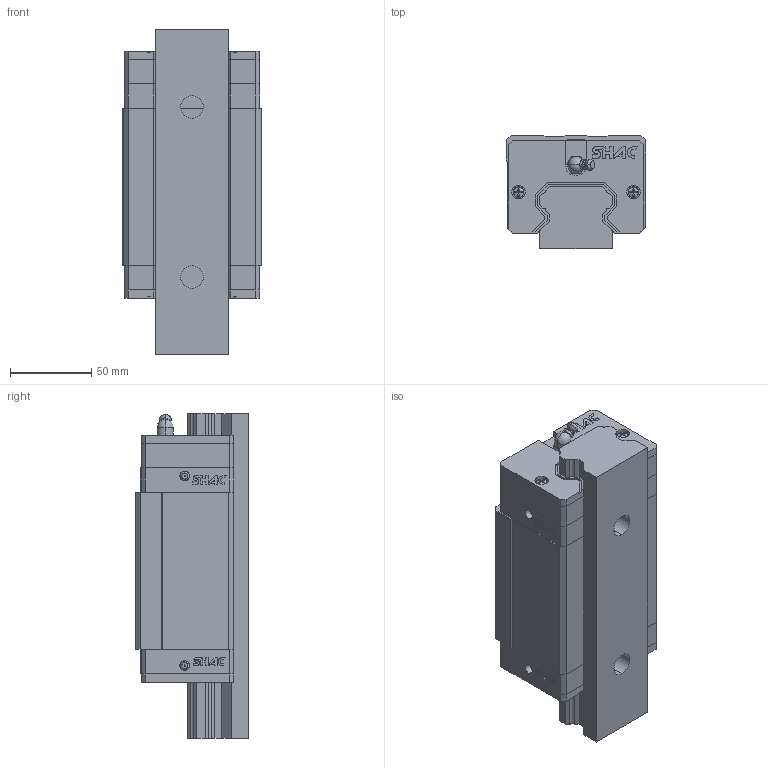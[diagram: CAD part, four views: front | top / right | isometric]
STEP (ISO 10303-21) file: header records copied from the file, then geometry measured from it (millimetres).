
FILE_DESCRIPTION (( 'STEP AP214' ), '1' );
FILE_NAME ('STP_GHH45CA_(E2)自润式_(R)上锁式_刮油片＋防尘条_200_200_1_GHH45CA_GHH45CA.step', '2020-06-27T09:28:54', ( 'IT Division' ), ( 'IT' ), 'SwSTEP 2.0', 'SolidWorks 2016', '' );
FILE_SCHEMA (( 'AUTOMOTIVE_DESIGN' ));
Length unit declared in the file: millimetre
Products named in the file (3): STP_GHH45CA_(E2)自润式_(R)上锁式_刮油片＋防尘条_200_200_1_GHH45CA_GHH45CA_2; STP_GHH45CA_(E2)自润式_(R)上锁式_刮油片＋防尘条_200_200_1_GHH45CA_GHH45CA_1; STP_GHH45CA_(E2)自润式_(R)上锁式_刮油片＋防尘条_200_200_1_GHH45CA_GHH45CA
Assembly tree (2 placements, depth 2):
  STP_GHH45CA_(E2)自润式_(R)上锁式_刮油片＋防尘条_200_200_1_GHH45CA_GHH45CA
    STP_GHH45CA_(E2)自润式_(R)上锁式_刮油片＋防尘条_200_200_1_GHH45CA_GHH45CA_1
    STP_GHH45CA_(E2)自润式_(R)上锁式_刮油片＋防尘条_200_200_1_GHH45CA_GHH45CA_2
Bounding box: 86 x 70 x 200 mm (x, y, z)
Volume: 872989.6 mm3; surface area: 141819.3 mm2
Topology: 8 solids, 8 shells, 850 faces, 2277 edges, 1494 vertices
Faces by surface type: plane 626, cylinder 158, cone 31, torus 25, sphere 10
Entity records: 29299 total; most frequent: CARTESIAN_POINT 4788, ORIENTED_EDGE 4530, DIRECTION 4404, EDGE_CURVE 2265, VECTOR 1764, LINE 1764, VERTEX_POINT 1492, AXIS2_PLACEMENT_3D 1320
